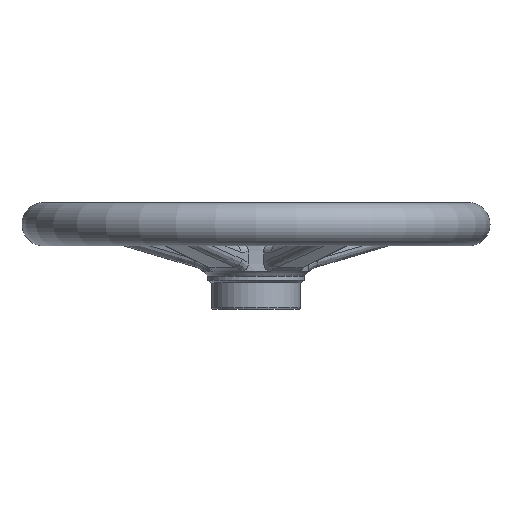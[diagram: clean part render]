
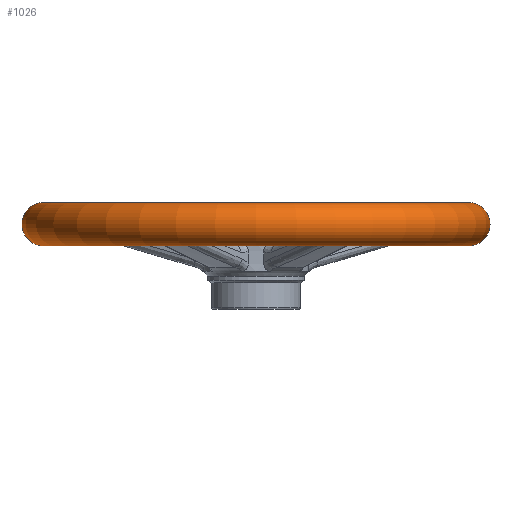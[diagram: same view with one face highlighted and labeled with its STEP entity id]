
A CAD part, left-side view. The second image highlights one B-rep face of the part: STEP entity #1026.
In plain terms, the highlighted toroidal (fillet/blend) face has major radius 127 mm and minor radius 13 mm.
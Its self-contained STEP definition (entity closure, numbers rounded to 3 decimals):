
#226 = AXIS2_PLACEMENT_3D ( 'NONE', #5486, #2898, #6636 ) ;
#476 = CARTESIAN_POINT ( 'NONE',  ( 0., 127., 51. ) ) ;
#1026 = ADVANCED_FACE ( 'NONE', ( #5285 ), #4130, .T. ) ;
#1272 = AXIS2_PLACEMENT_3D ( 'NONE', #3102, #3033, #4158 ) ;
#1299 = CARTESIAN_POINT ( 'NONE',  ( 0., 127., 38. ) ) ;
#1559 = CIRCLE ( 'NONE', #3063, 127. ) ;
#1607 = CIRCLE ( 'NONE', #3000, 127. ) ;
#1834 = EDGE_CURVE ( 'NONE', #5484, #2268, #4262, .T. ) ;
#2268 = VERTEX_POINT ( 'NONE', #5404 ) ;
#2299 = AXIS2_PLACEMENT_3D ( 'NONE', #476, #5203, #4150 ) ;
#2387 = CARTESIAN_POINT ( 'NONE',  ( 0., -127., 64. ) ) ;
#2556 = EDGE_CURVE ( 'NONE', #2268, #3512, #1559, .T. ) ;
#2898 = DIRECTION ( 'NONE',  ( 0., 0., 1. ) ) ;
#3000 = AXIS2_PLACEMENT_3D ( 'NONE', #6359, #3789, #3281 ) ;
#3033 = DIRECTION ( 'NONE',  ( -1., 0., 0. ) ) ;
#3063 = AXIS2_PLACEMENT_3D ( 'NONE', #5247, #3778, #5279 ) ;
#3102 = CARTESIAN_POINT ( 'NONE',  ( 0., -127., 51. ) ) ;
#3281 = DIRECTION ( 'NONE',  ( 0., -1., 0. ) ) ;
#3316 = CIRCLE ( 'NONE', #1272, 13. ) ;
#3512 = VERTEX_POINT ( 'NONE', #2387 ) ;
#3778 = DIRECTION ( 'NONE',  ( 0., 0., 1. ) ) ;
#3789 = DIRECTION ( 'NONE',  ( 0., 0., 1. ) ) ;
#4066 = CARTESIAN_POINT ( 'NONE',  ( 0., -127., 38. ) ) ;
#4130 = TOROIDAL_SURFACE ( 'NONE', #226, 127., 13. ) ;
#4150 = DIRECTION ( 'NONE',  ( 0., 1., 0. ) ) ;
#4158 = DIRECTION ( 'NONE',  ( 0., 0., 1. ) ) ;
#4262 = CIRCLE ( 'NONE', #2299, 13. ) ;
#4803 = ORIENTED_EDGE ( 'NONE', *, *, #5126, .T. ) ;
#5126 = EDGE_CURVE ( 'NONE', #5668, #3512, #3316, .T. ) ;
#5203 = DIRECTION ( 'NONE',  ( 1., 0., 0. ) ) ;
#5247 = CARTESIAN_POINT ( 'NONE',  ( 0., 0., 64. ) ) ;
#5279 = DIRECTION ( 'NONE',  ( 0., -1., 0. ) ) ;
#5285 = FACE_OUTER_BOUND ( 'NONE', #6142, .T. ) ;
#5404 = CARTESIAN_POINT ( 'NONE',  ( 0., 127., 64. ) ) ;
#5484 = VERTEX_POINT ( 'NONE', #1299 ) ;
#5486 = CARTESIAN_POINT ( 'NONE',  ( 0., 0., 51. ) ) ;
#5619 = ORIENTED_EDGE ( 'NONE', *, *, #6475, .T. ) ;
#5668 = VERTEX_POINT ( 'NONE', #4066 ) ;
#5860 = ORIENTED_EDGE ( 'NONE', *, *, #1834, .F. ) ;
#6142 = EDGE_LOOP ( 'NONE', ( #5860, #5619, #4803, #6235 ) ) ;
#6235 = ORIENTED_EDGE ( 'NONE', *, *, #2556, .F. ) ;
#6359 = CARTESIAN_POINT ( 'NONE',  ( 0., 0., 38. ) ) ;
#6475 = EDGE_CURVE ( 'NONE', #5484, #5668, #1607, .T. ) ;
#6636 = DIRECTION ( 'NONE',  ( 0., -1., 0. ) ) ;
